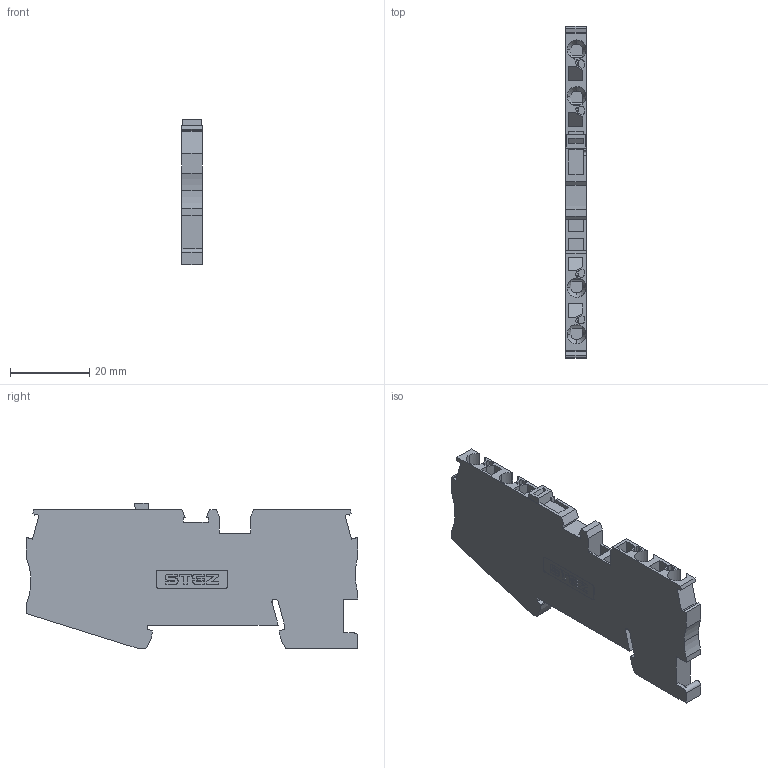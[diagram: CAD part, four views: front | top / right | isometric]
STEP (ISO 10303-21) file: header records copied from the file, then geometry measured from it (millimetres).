
FILE_DESCRIPTION(('TFLEX Exchange Step'),'2;1');
FILE_NAME('10200022_КНЗ_2,5-4-РЗМ.stp', '2024-03-12T14:36:56+03:00',('apanin'),('Unknown organisation'),'TFLEX Exchange 2023.2','T-FLEX CAD','Unknown authorisation');
FILE_SCHEMA( ('AUTOMOTIVE_DESIGN { 1 0 10303 214 1 1 1 1 }') );
Length unit declared in the file: millimetre
Products named in the file (1): Тело_1 - ST_2.5_QUATTRO_MT_select:1
Bounding box: 5.15 x 84 x 36.85 mm (x, y, z)
Volume: 11067.2 mm3; surface area: 8317.9 mm2
Topology: 1 solids, 1 shells, 516 faces, 1464 edges, 966 vertices
Faces by surface type: plane 273, cylinder 219, cone 24
Entity records: 17578 total; most frequent: CARTESIAN_POINT 3819, ORIENTED_EDGE 2928, DIRECTION 2849, EDGE_CURVE 1464, VERTEX_POINT 966, VECTOR 955, LINE 955, AXIS2_PLACEMENT_3D 947
